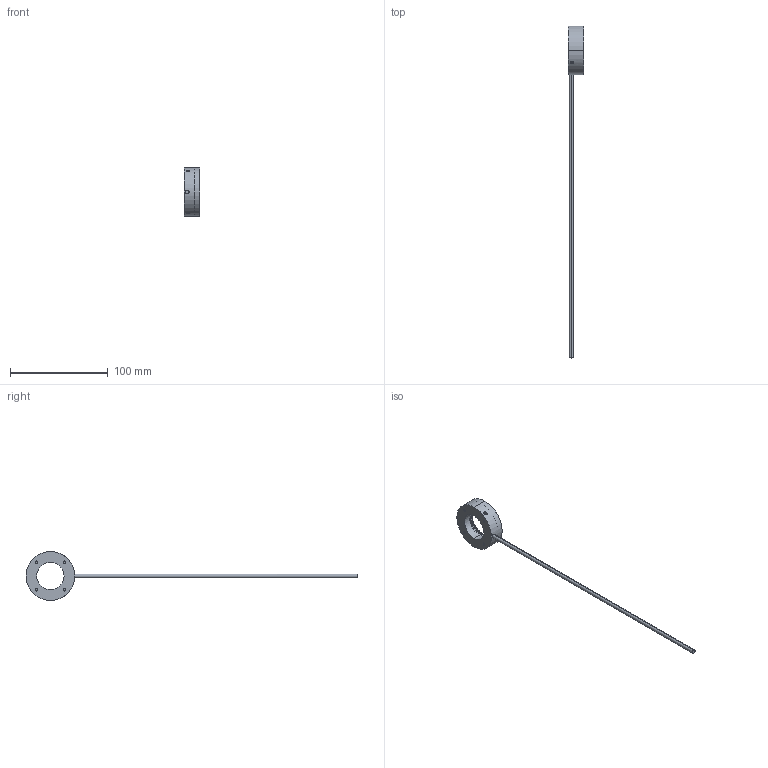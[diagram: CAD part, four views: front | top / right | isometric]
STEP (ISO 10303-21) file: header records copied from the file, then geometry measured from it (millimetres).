
FILE_DESCRIPTION (( 'STEP AP214' ), '1' );
FILE_NAME ('CV-R-50X28-75#20140616.STEP', '2014-06-16T02:37:30', ( '' ), ( '' ), 'SwSTEP 2.0', 'SolidWorks 2011', '' );
FILE_SCHEMA (( 'AUTOMOTIVE_DESIGN' ));
Length unit declared in the file: millimetre
Products named in the file (1): CV-R-50X28-75#20140616
Bounding box: 16 x 340 x 50 mm (x, y, z)
Volume: 19560.4 mm3; surface area: 13769.7 mm2
Topology: 1 solids, 1 shells, 558 faces, 1398 edges, 877 vertices
Faces by surface type: cylinder 251, plane 169, bspline 120, cone 18
Entity records: 25680 total; most frequent: CARTESIAN_POINT 12608, ORIENTED_EDGE 2606, DIRECTION 2345, EDGE_CURVE 1303, AXIS2_PLACEMENT_3D 940, VERTEX_POINT 877, EDGE_LOOP 690, FACE_OUTER_BOUND 558
